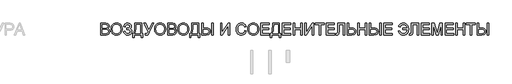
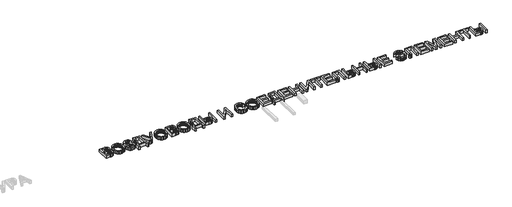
# One storey, part 8 of 8: 1 proxy.
"""IFC4 building model written with IfcOpenShell, lengths in millimetres."""

from ifc_helpers import new_model, si_unit, origin, origin_with_axes, place, context, project, spatial, polyline, outline, extrude, element, save

model = new_model("IFC4")

# Units and contexts
model_context = context("Model", 3, world=origin())
ifc_project = project(units=[si_unit("LENGTHUNIT", "METRE", prefix="MILLI")], contexts=[model_context])

# Site, building, storey
site = spatial("IfcSite", under=ifc_project)
building = spatial("IfcBuilding", under=site)
storey = spatial("IfcBuildingStorey", under=building, Name="Уровень 1", Elevation=0.0)

# Proxy
placement = place(None, origin())
element("IfcBuildingElementProxy", 1, Name="1000 мм Arial", ObjectType="1000 мм Arial", at=placement, inside=storey, context=model_context, shape_type="SweptSolid", body=[
    extrude(outline(polyline([(-53728.4131432, 36102.2722576), (-53728.4131432, 37106.8353591), (-53345.0801043, 37106.8353591), (-53289.4762735, 37104.9882849), (-53239.6512558, 37099.4470623), (-53195.6050511, 37090.2116914), (-53157.3376594, 37077.2821721), (-53123.8757263, 37060.5205487), (-53094.2458972, 37039.7888654), (-53068.4481723, 37015.0871223), (-53046.4825515, 36986.4153193), (-53028.9391789, 36955.3906044), (-53016.4081984, 36923.6301255), (-53008.8896101, 36891.1338826), (-53006.383414, 36857.9018757), (-53008.4910713, 36827.2067217), (-53014.8140431, 36797.4159443), (-53025.3523294, 36768.5295435), (-53040.1059303, 36740.5475192), (-53059.1208309, 36714.3435912), (-53082.4430165, 36690.7914793), (-53110.0724872, 36669.8911835), (-53142.0092429, 36651.6427037), (-53104.1097332, 36635.4865527), (-53070.8547337, 36614.4866222), (-53042.2442444, 36588.642912), (-53018.2782652, 36557.9554223), (-52999.3400067, 36523.3591863), (-52985.8126791, 36485.7892375), (-52977.6962826, 36445.245576), (-52974.9908171, 36401.7282016), (-52976.8378913, 36366.0666407), (-52982.3791139, 36331.6773384), (-52991.6144848, 36298.5602946), (-53004.5440041, 36266.7155094), (-53020.2019815, 36237.3002782), (-53037.6227268, 36211.4718965), (-53056.80624, 36189.2303642), (-53077.7525211, 36170.5756813), (-53100.9520794, 36154.7414271), (-53126.8954243, 36140.9611807), (-53187.0134737, 36119.5627113), (-53260.0687066, 36106.594871), (-53348.0231602, 36102.2722576), (-53728.4131432, 36102.2722576)]), holes=[polyline([(-53602.8427556, 36698.7315991), (-53373.5296452, 36698.7315991), (-53293.3313703, 36701.4294004), (-53239.620599, 36709.5228043), (-53214.5356454, 36717.6698576), (-53192.7463014, 36728.1315019), (-53174.252567, 36740.907737), (-53159.054442, 36755.998563), (-53147.1979119, 36773.296681), (-53138.7289618, 36792.694792), (-53133.6475917, 36814.1928961), (-53131.9538017, 36837.7909933), (-53133.5326286, 36860.3850791), (-53138.2691093, 36881.5689507), (-53146.1632438, 36901.3426079), (-53157.2150321, 36919.7060508), (-53171.2098763, 36935.9771649), (-53187.9331787, 36949.4738356), (-53207.3849392, 36960.1960629), (-53229.5651578, 36968.1438469), (-53293.4539976, 36977.9846902), (-53390.9427263, 36981.2649714), (-53602.8427556, 36981.2649714), (-53602.8427556, 36698.7315991)]), polyline([(-53602.8427556, 36227.8426452), (-53345.3253589, 36227.8426452), (-53288.9167863, 36229.0689186), (-53252.1285868, 36232.7477385), (-53208.8717956, 36243.6309142), (-53173.2792125, 36260.0936335), (-53144.3391622, 36283.668738), (-53121.0399692, 36315.8890694), (-53105.6808959, 36355.3137566), (-53100.5612048, 36400.5019283), (-53102.0633896, 36427.6638823), (-53106.5699441, 36452.9864263), (-53114.0808681, 36476.4695603), (-53124.5961618, 36498.1132844), (-53138.4760429, 36517.2967976), (-53156.0807292, 36533.3992991), (-53177.4102208, 36546.4207889), (-53202.4645175, 36556.3612669), (-53232.3472654, 36563.7112426), (-53268.1621104, 36568.9612253), (-53357.5880921, 36573.1612114), (-53602.8427556, 36573.1612114), (-53602.8427556, 36227.8426452)])]), origin_with_axes(), (0.0, 0.0, 1.0), 250.0),
    extrude(outline(polyline([(-52849.4204294, 36591.3100565), (-52847.3281006, 36651.9147831), (-52841.051114, 36709.1395939), (-52830.5894698, 36762.9844888), (-52815.9431679, 36813.4494679), (-52797.1122082, 36860.5345312), (-52774.0965909, 36904.2396786), (-52746.8963159, 36944.5649102), (-52715.5113832, 36981.510226), (-52680.8193446, 37014.562124), (-52643.697752, 37043.2071023), (-52604.1466055, 37067.4451608), (-52562.1659049, 37087.2762996), (-52517.7556503, 37102.7005187), (-52470.9158416, 37113.717818), (-52421.646479, 37120.3281977), (-52369.9475624, 37122.5316575), (-52302.3645742, 37118.3929851), (-52238.1844944, 37105.9769677), (-52177.4073232, 37085.2836055), (-52120.0330603, 37056.3128984), (-52067.6711897, 37019.9385661), (-52021.931195, 36977.0343284), (-51982.8130761, 36927.6001853), (-51950.3168332, 36871.6361368), (-51924.7796914, 36810.4144414), (-51906.5388758, 36745.2073578), (-51895.5943864, 36676.0148859), (-51891.9462233, 36602.8370257), (-51895.7859916, 36528.6934752), (-51907.3052966, 36458.5659699), (-51926.5041382, 36392.4545097), (-51953.3825165, 36330.3590946), (-51987.3043022, 36273.9198651), (-52027.6333659, 36224.776962), (-52074.3697077, 36182.930385), (-52127.5133276, 36148.3801343), (-52184.9718967, 36121.3408076), (-52244.6530862, 36102.0270029), (-52306.5568961, 36090.43872), (-52370.6833264, 36086.5759591), (-52439.4466026, 36090.8449231), (-52504.4697453, 36103.651815), (-52565.7527543, 36124.996635), (-52623.2956297, 36154.8793829), (-52675.5961867, 36192.1427633), (-52721.1522404, 36235.6294808), (-52759.9637909, 36285.3395354), (-52792.0308382, 36341.2729271), (-52817.1387844, 36401.1840429), (-52835.0730316, 36462.8272697), (-52845.83358, 36526.2026075), (-52849.4204294, 36591.3100565)]), holes=[polyline([(-52723.8500417, 36590.0837832), (-52722.2807951, 36547.2906765), (-52717.5730552, 36506.8351533), (-52709.726822, 36468.7172137), (-52698.7420956, 36432.9368576), (-52684.6188759, 36399.4940849), (-52667.3571629, 36368.3888958), (-52646.9569566, 36339.6212902), (-52623.4182571, 36313.1912681), (-52597.5113172, 36289.5088647), (-52570.0063899, 36268.984115), (-52540.9034752, 36251.6170192), (-52510.202573, 36237.4075771), (-52477.9036835, 36226.3557889), (-52444.0068065, 36218.4616544), (-52408.5119422, 36213.7251737), (-52371.4190904, 36212.1463468), (-52333.6479561, 36213.7405021), (-52297.5897725, 36218.522968), (-52263.2445393, 36226.4937446), (-52230.6122567, 36237.6528318), (-52199.6929247, 36252.0002296), (-52170.4865431, 36269.535938), (-52142.9931121, 36290.2599571), (-52117.2126317, 36314.1722868), (-52093.8463769, 36341.0161761), (-52073.5956226, 36370.5348741), (-52056.4603691, 36402.7283808), (-52042.4406162, 36437.5966962), (-52031.5363639, 36475.1398202), (-52023.7476123, 36515.3577529), (-52019.0743613, 36558.2504943), (-52017.516611, 36603.8180443), (-52020.1837555, 36661.2842776), (-52028.1851889, 36714.9797205), (-52041.5209112, 36764.904373), (-52060.1909224, 36811.0582349), (-52083.988289, 36852.835834), (-52112.7060773, 36889.6316977), (-52146.3442872, 36921.4458261), (-52184.9029188, 36948.2782191), (-52227.1863556, 36969.5770538), (-52271.9989812, 36984.7905072), (-52319.3407954, 36993.9185792), (-52369.2117984, 36996.9612698), (-52439.2779901, 36991.0981505), (-52504.2858043, 36973.5087926), (-52534.8928199, 36960.3167742), (-52564.2352411, 36944.1931961), (-52619.1263005, 36903.1513611), (-52643.6709273, 36877.7387626), (-52664.9429373, 36848.4059217), (-52682.9423303, 36815.1528382), (-52697.6691064, 36777.9795122), (-52709.1232656, 36736.8859437), (-52717.3048079, 36691.8721327), (-52722.2137333, 36642.9380792), (-52723.8500417, 36590.0837832)])]), origin_with_axes(), (0.0, 0.0, 1.0), 250.0),
    extrude(outline(polyline([(-51766.3758356, 36384.8056299), (-51640.8054479, 36416.1982268), (-51630.5584015, 36382.2227917), (-51614.2872875, 36348.2320282), (-51591.9921057, 36314.2259362), (-51563.6728563, 36280.2045159), (-51529.7893917, 36250.4290669), (-51490.8015644, 36229.1608891), (-51446.7093744, 36216.3999824), (-51397.5128218, 36212.1463468), (-51347.4578778, 36215.3423216), (-51302.9978059, 36224.9302461), (-51264.1326059, 36240.9101203), (-51230.862278, 36263.2819441), (-51204.1984975, 36290.1756508), (-51185.1529401, 36319.7211735), (-51173.7256056, 36351.9185123), (-51169.9164941, 36386.7676672), (-51174.0781592, 36423.8854276), (-51186.5631544, 36457.0024714), (-51207.3714798, 36486.1187985), (-51236.5031352, 36511.2344089), (-51272.8084896, 36531.4602544), (-51315.1379117, 36545.9072869), (-51363.4914015, 36554.5755064), (-51417.8689589, 36557.4649129), (-51483.8424633, 36557.4649129), (-51483.8424633, 36683.0353006), (-51401.8354352, 36685.5798177), (-51341.7173859, 36693.2133691), (-51317.8433772, 36700.2797691), (-51295.3949113, 36711.3009006), (-51274.3719881, 36726.2767635), (-51254.7746077, 36745.2073578), (-51238.2505747, 36766.8280892), (-51226.447694, 36789.8743634), (-51219.3659656, 36814.3461803), (-51217.0053895, 36840.2435399), (-51220.1477149, 36870.8467234), (-51229.574691, 36899.3805706), (-51245.2863179, 36925.8450816), (-51267.2825955, 36950.2402564), (-51294.6438189, 36970.6806998), (-51326.4502831, 36985.2810165), (-51362.701988, 36994.0412065), (-51403.3989337, 36996.9612698), (-51439.551004, 36994.7156568), (-51472.9592876, 36987.9788178), (-51503.6237848, 36976.7507527), (-51531.5444954, 36961.0314616), (-51556.0393049, 36941.6026938), (-51576.4260988, 36919.2461983), (-51592.7048771, 36893.9619754), (-51604.8756398, 36865.7500249), (-51620.0507721, 36813.9399772), (-51625.1091495, 36777.2130914), (-51750.6795372, 36808.6056883), (-51735.1326908, 36882.1820873), (-51711.6687173, 36945.9482998), (-51680.2876167, 36999.9043258), (-51640.9893889, 37044.0501652), (-51593.7740341, 37078.3858181), (-51538.6415522, 37102.9112844), (-51475.5919432, 37117.6265642), (-51404.625207, 37122.5316575), (-51336.2528054, 37117.434959), (-51275.3453426, 37102.1448636), (-51221.9028186, 37076.6613712), (-51175.9252334, 37040.9844819), (-51138.9607571, 36998.4864473), (-51112.5575597, 36952.5395189), (-51096.7156413, 36903.1436969), (-51091.4350018, 36850.2989811), (-51093.4890096, 36816.2737286), (-51099.651033, 36784.2181777), (-51109.9210721, 36754.1323283), (-51124.2991267, 36726.0161804), (-51142.785197, 36699.869734), (-51165.3792828, 36675.6929891), (-51192.0813843, 36653.4859458), (-51222.8915014, 36633.2486039), (-51186.4251987, 36619.9358742), (-51153.055236, 36601.0895862), (-51122.7816135, 36576.7097398), (-51095.6043311, 36546.7963351), (-51073.1788578, 36512.5143316), (-51057.1606626, 36475.0286892), (-51047.5497455, 36434.3394077), (-51044.3461064, 36390.4464871), (-51045.8827802, 36358.7339095), (-51050.4928014, 36328.3434078), (-51058.1761702, 36299.274982), (-51068.9328864, 36271.5286322), (-51082.7629502, 36245.1043582), (-51099.6663615, 36220.0021602), (-51142.6932265, 36173.763992), (-51168.2801857, 36153.3292968), (-51195.8675032, 36135.6192276), (-51225.4551791, 36120.6337844), (-51257.0432133, 36108.3729673), (-51326.2203568, 36092.0252112), (-51403.3989337, 36086.5759591), (-51470.1235306, 36091.2357977), (-51530.7474177, 36105.2153135), (-51585.2705951, 36128.5145065), (-51633.6930627, 36161.1333768), (-51676.0148206, 36203.0719242), (-51712.2358687, 36254.3301489), (-51742.356207, 36314.9080508), (-51766.3758356, 36384.8056299)])), origin_with_axes(), (0.0, 0.0, 1.0), 250.0),
    extrude(outline(polyline([(-50777.5090326, 37106.8353591), (-50181.0496911, 37106.8353591), (-50181.0496911, 36227.8426452), (-50086.8719003, 36227.8426452), (-50086.8719003, 35866.8277806), (-50212.442288, 35866.8277806), (-50212.442288, 36102.2722576), (-50855.9905249, 36102.2722576), (-50855.9905249, 35866.8277806), (-50981.5609126, 35866.8277806), (-50981.5609126, 36227.8426452), (-50903.0794203, 36227.8426452), (-50873.6488607, 36279.0050673), (-50848.1423757, 36341.748108), (-50826.5599653, 36416.0717673), (-50808.9016295, 36501.9760453), (-50795.1673684, 36599.4609419), (-50785.3571818, 36708.5264572), (-50779.4710699, 36829.1725911), (-50777.5090326, 36961.3993436), (-50777.5090326, 37106.8353591)]), holes=[polyline([(-50306.6200788, 36981.2649714), (-50651.9386449, 36981.2649714), (-50651.9386449, 36930.7425107), (-50658.3152662, 36781.8116163), (-50677.4451299, 36586.6502179), (-50693.2640557, 36482.3710007), (-50715.2143481, 36387.8099995), (-50743.296007, 36302.9672143), (-50777.5090326, 36227.8426452), (-50306.6200788, 36227.8426452), (-50306.6200788, 36981.2649714)])]), origin_with_axes(), (0.0, 0.0, 1.0), 250.0),
    extrude(outline(polyline([(-50000.5422588, 37106.8353591), (-49861.4828646, 37106.8353591), (-49561.0459019, 36511.8475455), (-49290.7752628, 37106.8353591), (-49152.9421419, 37106.8353591), (-49534.3131436, 36324.227728), (-49591.8866758, 36202.7040422), (-49616.3968137, 36160.9800926), (-49638.0558662, 36131.9480718), (-49660.4813395, 36112.0977725), (-49687.2907399, 36097.9189873), (-49718.4840674, 36089.4117161), (-49754.061322, 36086.5759591), (-49805.3808603, 36090.5000337), (-49867.1237219, 36102.2722576), (-49867.1237219, 36212.1463468), (-49768.2860925, 36212.1463468), (-49747.7919997, 36213.8937863), (-49728.738778, 36219.1361047), (-49711.1264275, 36227.8733021), (-49694.9549481, 36240.1053784), (-49679.1206939, 36258.5454634), (-49662.5200189, 36285.9066868), (-49627.0194063, 36367.3925488), (-50000.5422588, 37106.8353591)])), origin_with_axes(), (0.0, 0.0, 1.0), 250.0),
    extrude(outline(polyline([(-49082.3087988, 36591.3100565), (-49080.21647, 36651.9147831), (-49073.9394834, 36709.1395939), (-49063.4778392, 36762.9844888), (-49048.8315373, 36813.4494679), (-49030.0005776, 36860.5345312), (-49006.9849603, 36904.2396786), (-48979.7846853, 36944.5649102), (-48948.3997526, 36981.510226), (-48913.707714, 37014.562124), (-48876.5861214, 37043.2071023), (-48837.0349749, 37067.4451608), (-48795.0542743, 37087.2762996), (-48750.6440197, 37102.7005187), (-48703.804211, 37113.717818), (-48654.5348484, 37120.3281977), (-48602.8359318, 37122.5316575), (-48535.2529436, 37118.3929851), (-48471.0728638, 37105.9769677), (-48410.2956926, 37085.2836055), (-48352.9214297, 37056.3128984), (-48300.5595591, 37019.9385661), (-48254.8195643, 36977.0343284), (-48215.7014455, 36927.6001853), (-48183.2052026, 36871.6361368), (-48157.6680608, 36810.4144414), (-48139.4272452, 36745.2073578), (-48128.4827558, 36676.0148859), (-48124.8345927, 36602.8370257), (-48128.674361, 36528.6934752), (-48140.193666, 36458.5659699), (-48159.3925076, 36392.4545097), (-48186.2708859, 36330.3590946), (-48220.1926715, 36273.9198651), (-48260.5217353, 36224.776962), (-48307.2580771, 36182.930385), (-48360.401697, 36148.3801343), (-48417.8602661, 36121.3408076), (-48477.5414556, 36102.0270029), (-48539.4452655, 36090.43872), (-48603.5716958, 36086.5759591), (-48672.334972, 36090.8449231), (-48737.3581147, 36103.651815), (-48798.6411237, 36124.996635), (-48856.1839991, 36154.8793829), (-48908.4845561, 36192.1427633), (-48954.0406098, 36235.6294808), (-48992.8521603, 36285.3395354), (-49024.9192076, 36341.2729271), (-49050.0271537, 36401.1840429), (-49067.961401, 36462.8272697), (-49078.7219494, 36526.2026075), (-49082.3087988, 36591.3100565)]), holes=[polyline([(-48956.7384111, 36590.0837832), (-48955.1691645, 36547.2906765), (-48950.4614246, 36506.8351533), (-48942.6151914, 36468.7172137), (-48931.630465, 36432.9368576), (-48917.5072452, 36399.4940849), (-48900.2455323, 36368.3888958), (-48879.845326, 36339.6212902), (-48856.3066265, 36313.1912681), (-48830.3996866, 36289.5088647), (-48802.8947593, 36268.984115), (-48773.7918446, 36251.6170192), (-48743.0909424, 36237.4075771), (-48710.7920529, 36226.3557889), (-48676.8951759, 36218.4616544), (-48641.4003116, 36213.7251737), (-48604.3074598, 36212.1463468), (-48566.5363255, 36213.7405021), (-48530.4781419, 36218.522968), (-48496.1329087, 36226.4937446), (-48463.5006261, 36237.6528318), (-48432.581294, 36252.0002296), (-48403.3749125, 36269.535938), (-48375.8814815, 36290.2599571), (-48350.1010011, 36314.1722868), (-48326.7347462, 36341.0161761), (-48306.483992, 36370.5348741), (-48289.3487385, 36402.7283808), (-48275.3289856, 36437.5966962), (-48264.4247333, 36475.1398202), (-48256.6359817, 36515.3577529), (-48251.9627307, 36558.2504943), (-48250.4049804, 36603.8180443), (-48253.0721249, 36661.2842776), (-48261.0735583, 36714.9797205), (-48274.4092806, 36764.904373), (-48293.0792918, 36811.0582349), (-48316.8766584, 36852.835834), (-48345.5944466, 36889.6316977), (-48379.2326566, 36921.4458261), (-48417.7912882, 36948.2782191), (-48460.074725, 36969.5770538), (-48504.8873506, 36984.7905072), (-48552.2291648, 36993.9185792), (-48602.1001678, 36996.9612698), (-48672.1663595, 36991.0981505), (-48737.1741737, 36973.5087926), (-48767.7811893, 36960.3167742), (-48797.1236105, 36944.1931961), (-48852.0146698, 36903.1513611), (-48876.5592967, 36877.7387626), (-48897.8313067, 36848.4059217), (-48915.8306997, 36815.1528382), (-48930.5574758, 36777.9795122), (-48942.011635, 36736.8859437), (-48950.1931773, 36691.8721327), (-48955.1021027, 36642.9380792), (-48956.7384111, 36590.0837832)])]), origin_with_axes(), (0.0, 0.0, 1.0), 250.0),
    extrude(outline(polyline([(-47952.1753096, 36102.2722576), (-47952.1753096, 37106.8353591), (-47568.8422707, 37106.8353591), (-47513.2384399, 37104.9882849), (-47463.4134222, 37099.4470623), (-47419.3672175, 37090.2116914), (-47381.0998258, 37077.2821721), (-47347.6378927, 37060.5205487), (-47318.0080636, 37039.7888654), (-47292.2103387, 37015.0871223), (-47270.2447179, 36986.4153193), (-47252.7013453, 36955.3906044), (-47240.1703648, 36923.6301255), (-47232.6517765, 36891.1338826), (-47230.1455804, 36857.9018757), (-47232.2532377, 36827.2067217), (-47238.5762095, 36797.4159443), (-47249.1144958, 36768.5295435), (-47263.8680967, 36740.5475192), (-47282.8829973, 36714.3435912), (-47306.2051829, 36690.7914793), (-47333.8346536, 36669.8911835), (-47365.7714093, 36651.6427037), (-47327.8718996, 36635.4865527), (-47294.6169001, 36614.4866222), (-47266.0064108, 36588.642912), (-47242.0404316, 36557.9554223), (-47223.1021731, 36523.3591863), (-47209.5748455, 36485.7892375), (-47201.458449, 36445.245576), (-47198.7529835, 36401.7282016), (-47200.6000577, 36366.0666407), (-47206.1412803, 36331.6773384), (-47215.3766512, 36298.5602946), (-47228.3061705, 36266.7155094), (-47243.9641479, 36237.3002782), (-47261.3848932, 36211.4718965), (-47280.5684064, 36189.2303642), (-47301.5146875, 36170.5756813), (-47324.7142458, 36154.7414271), (-47350.6575907, 36140.9611807), (-47410.7756401, 36119.5627113), (-47483.8308729, 36106.594871), (-47571.7853266, 36102.2722576), (-47952.1753096, 36102.2722576)]), holes=[polyline([(-47826.604922, 36698.7315991), (-47597.2918116, 36698.7315991), (-47517.0935367, 36701.4294004), (-47463.3827654, 36709.5228043), (-47438.2978118, 36717.6698576), (-47416.5084678, 36728.1315019), (-47398.0147334, 36740.907737), (-47382.8166084, 36755.998563), (-47370.9600783, 36773.296681), (-47362.4911282, 36792.694792), (-47357.4097581, 36814.1928961), (-47355.7159681, 36837.7909933), (-47357.294795, 36860.3850791), (-47362.0312757, 36881.5689507), (-47369.9254102, 36901.3426079), (-47380.9771985, 36919.7060508), (-47394.9720427, 36935.9771649), (-47411.6953451, 36949.4738356), (-47431.1471056, 36960.1960629), (-47453.3273242, 36968.1438469), (-47517.216164, 36977.9846902), (-47614.7048927, 36981.2649714), (-47826.604922, 36981.2649714), (-47826.604922, 36698.7315991)]), polyline([(-47826.604922, 36227.8426452), (-47569.0875253, 36227.8426452), (-47512.6789527, 36229.0689186), (-47475.8907532, 36232.7477385), (-47432.633962, 36243.6309142), (-47397.0413789, 36260.0936335), (-47368.1013286, 36283.668738), (-47344.8021356, 36315.8890694), (-47329.4430623, 36355.3137566), (-47324.3233712, 36400.5019283), (-47325.825556, 36427.6638823), (-47330.3321105, 36452.9864263), (-47337.8430345, 36476.4695603), (-47348.3583282, 36498.1132844), (-47362.2382093, 36517.2967976), (-47379.8428956, 36533.3992991), (-47401.1723872, 36546.4207889), (-47426.2266839, 36556.3612669), (-47456.1094318, 36563.7112426), (-47491.9242768, 36568.9612253), (-47581.3502585, 36573.1612114), (-47826.604922, 36573.1612114), (-47826.604922, 36227.8426452)])]), origin_with_axes(), (0.0, 0.0, 1.0), 250.0),
    extrude(outline(polyline([(-47073.1825958, 36591.3100565), (-47071.090267, 36651.9147831), (-47064.8132804, 36709.1395939), (-47054.3516362, 36762.9844888), (-47039.7053343, 36813.4494679), (-47020.8743746, 36860.5345312), (-46997.8587573, 36904.2396786), (-46970.6584823, 36944.5649102), (-46939.2735496, 36981.510226), (-46904.581511, 37014.562124), (-46867.4599184, 37043.2071023), (-46827.9087719, 37067.4451608), (-46785.9280713, 37087.2762996), (-46741.5178167, 37102.7005187), (-46694.678008, 37113.717818), (-46645.4086454, 37120.3281977), (-46593.7097288, 37122.5316575), (-46526.1267406, 37118.3929851), (-46461.9466608, 37105.9769677), (-46401.1694896, 37085.2836055), (-46343.7952267, 37056.3128984), (-46291.4333561, 37019.9385661), (-46245.6933613, 36977.0343284), (-46206.5752425, 36927.6001853), (-46174.0789996, 36871.6361368), (-46148.5418578, 36810.4144414), (-46130.3010422, 36745.2073578), (-46119.3565528, 36676.0148859), (-46115.7083897, 36602.8370257), (-46119.548158, 36528.6934752), (-46131.067463, 36458.5659699), (-46150.2663046, 36392.4545097), (-46177.1446829, 36330.3590946), (-46211.0664686, 36273.9198651), (-46251.3955323, 36224.776962), (-46298.1318741, 36182.930385), (-46351.275494, 36148.3801343), (-46408.7340631, 36121.3408076), (-46468.4152526, 36102.0270029), (-46530.3190625, 36090.43872), (-46594.4454928, 36086.5759591), (-46663.208769, 36090.8449231), (-46728.2319117, 36103.651815), (-46789.5149207, 36124.996635), (-46847.0577961, 36154.8793829), (-46899.3583531, 36192.1427633), (-46944.9144068, 36235.6294808), (-46983.7259573, 36285.3395354), (-47015.7930046, 36341.2729271), (-47040.9009508, 36401.1840429), (-47058.835198, 36462.8272697), (-47069.5957464, 36526.2026075), (-47073.1825958, 36591.3100565)]), holes=[polyline([(-46947.6122081, 36590.0837832), (-46946.0429615, 36547.2906765), (-46941.3352216, 36506.8351533), (-46933.4889884, 36468.7172137), (-46922.504262, 36432.9368576), (-46908.3810423, 36399.4940849), (-46891.1193293, 36368.3888958), (-46870.719123, 36339.6212902), (-46847.1804235, 36313.1912681), (-46821.2734836, 36289.5088647), (-46793.7685563, 36268.984115), (-46764.6656416, 36251.6170192), (-46733.9647394, 36237.4075771), (-46701.6658499, 36226.3557889), (-46667.7689729, 36218.4616544), (-46632.2741086, 36213.7251737), (-46595.1812568, 36212.1463468), (-46557.4101225, 36213.7405021), (-46521.3519389, 36218.522968), (-46487.0067057, 36226.4937446), (-46454.3744231, 36237.6528318), (-46423.455091, 36252.0002296), (-46394.2487095, 36269.535938), (-46366.7552785, 36290.2599571), (-46340.9747981, 36314.1722868), (-46317.6085432, 36341.0161761), (-46297.357789, 36370.5348741), (-46280.2225355, 36402.7283808), (-46266.2027826, 36437.5966962), (-46255.2985303, 36475.1398202), (-46247.5097787, 36515.3577529), (-46242.8365277, 36558.2504943), (-46241.2787774, 36603.8180443), (-46243.9459219, 36661.2842776), (-46251.9473553, 36714.9797205), (-46265.2830776, 36764.904373), (-46283.9530888, 36811.0582349), (-46307.7504554, 36852.835834), (-46336.4682437, 36889.6316977), (-46370.1064536, 36921.4458261), (-46408.6650852, 36948.2782191), (-46450.948522, 36969.5770538), (-46495.7611476, 36984.7905072), (-46543.1029618, 36993.9185792), (-46592.9739648, 36996.9612698), (-46663.0401565, 36991.0981505), (-46728.0479707, 36973.5087926), (-46758.6549863, 36960.3167742), (-46787.9974075, 36944.1931961), (-46842.8884669, 36903.1513611), (-46867.4330937, 36877.7387626), (-46888.7051037, 36848.4059217), (-46906.7044967, 36815.1528382), (-46921.4312728, 36777.9795122), (-46932.885432, 36736.8859437), (-46941.0669743, 36691.8721327), (-46945.9758997, 36642.9380792), (-46947.6122081, 36590.0837832)])]), origin_with_axes(), (0.0, 0.0, 1.0), 250.0),
    extrude(outline(polyline([(-45848.8713159, 37106.8353591), (-45252.4119744, 37106.8353591), (-45252.4119744, 36227.8426452), (-45158.2341836, 36227.8426452), (-45158.2341836, 35866.8277806), (-45283.8045713, 35866.8277806), (-45283.8045713, 36102.2722576), (-45927.3528082, 36102.2722576), (-45927.3528082, 35866.8277806), (-46052.9231959, 35866.8277806), (-46052.9231959, 36227.8426452), (-45974.4417036, 36227.8426452), (-45945.011144, 36279.0050673), (-45919.504659, 36341.748108), (-45897.9222486, 36416.0717673), (-45880.2639128, 36501.9760453), (-45866.5296517, 36599.4609419), (-45856.7194651, 36708.5264572), (-45850.8333532, 36829.1725911), (-45848.8713159, 36961.3993436), (-45848.8713159, 37106.8353591)]), holes=[polyline([(-45377.9823621, 36981.2649714), (-45723.3009282, 36981.2649714), (-45723.3009282, 36930.7425107), (-45729.6775494, 36781.8116163), (-45748.8074132, 36586.6502179), (-45764.626339, 36482.3710007), (-45786.5766314, 36387.8099995), (-45814.6582903, 36302.9672143), (-45848.8713159, 36227.8426452), (-45377.9823621, 36227.8426452), (-45377.9823621, 36981.2649714)])]), origin_with_axes(), (0.0, 0.0, 1.0), 250.0),
    extrude(outline(polyline([(-44122.2784852, 37106.8353591), (-43996.7080975, 37106.8353591), (-43996.7080975, 36102.2722576), (-44122.2784852, 36102.2722576), (-44122.2784852, 37106.8353591)])), origin_with_axes(), (0.0, 0.0, 1.0), 250.0),
    extrude(outline(polyline([(-45001.271199, 37106.8353591), (-44875.7008113, 37106.8353591), (-44875.7008113, 36683.0353006), (-44634.3702225, 36683.0353006), (-44526.0443033, 36677.5477275), (-44479.4804062, 36670.6882611), (-44437.9825507, 36661.0850082), (-44401.5507369, 36648.7379688), (-44370.1849647, 36633.6471428), (-44343.8852341, 36615.8125302), (-44322.6515452, 36595.2341311), (-44289.9253761, 36549.8620184), (-44266.549541, 36501.5468497), (-44252.5240399, 36450.288625), (-44247.8488729, 36396.0873444), (-44252.7922872, 36339.1805982), (-44267.6225301, 36285.9373437), (-44292.3396017, 36236.3575806), (-44326.9435018, 36190.4413091), (-44348.8382287, 36169.7766876), (-44374.9750948, 36151.867349), (-44405.3541002, 36136.7132933), (-44439.9752449, 36124.3145204), (-44478.8385288, 36114.6710304), (-44521.9439519, 36107.7828233), (-44620.881216, 36102.2722576), (-45001.271199, 36102.2722576), (-45001.271199, 37106.8353591)]), holes=[polyline([(-44875.7008113, 36227.8426452), (-44622.1074893, 36227.8426452), (-44561.2306833, 36230.3335129), (-44509.3210009, 36237.806116), (-44466.3784422, 36250.2604543), (-44432.4030071, 36267.6965281), (-44406.597618, 36290.6201749), (-44388.1651972, 36319.5372325), (-44377.1057447, 36354.447701), (-44373.4192606, 36395.3515804), (-44375.6495452, 36423.9390771), (-44382.3403989, 36450.104684), (-44393.4918219, 36473.8484011), (-44409.1038141, 36495.1702284), (-44428.2490063, 36513.4570293), (-44450.0000292, 36528.095667), (-44474.356883, 36539.0861416), (-44501.3195676, 36546.4284531), (-44576.7660334, 36554.705798), (-44690.0430311, 36557.4649129), (-44875.7008113, 36557.4649129), (-44875.7008113, 36227.8426452)])]), origin_with_axes(), (0.0, 0.0, 1.0), 250.0),
    extrude(outline(polyline([(-43368.8561591, 37106.8353591), (-43243.2857714, 37106.8353591), (-43243.2857714, 36311.2292308), (-42717.4597729, 37106.8353591), (-42584.041236, 37106.8353591), (-42584.041236, 36102.2722576), (-42709.6116237, 36102.2722576), (-42709.6116237, 36895.6710938), (-43234.2113488, 36102.2722576), (-43368.8561591, 36102.2722576), (-43368.8561591, 37106.8353591)])), origin_with_axes(), (0.0, 0.0, 1.0), 250.0),
    extrude(outline(polyline([(-41265.5521653, 36459.3630475), (-41139.9817776, 36426.989432), (-41164.8291407, 36348.8988143), (-41197.9231919, 36280.6643684), (-41239.2639311, 36222.2860943), (-41263.0268087, 36196.7930216), (-41288.8513583, 36173.763992), (-41345.5664993, 36135.6192276), (-41408.2903794, 36108.3729673), (-41477.0229989, 36092.0252112), (-41551.7643576, 36086.5759591), (-41628.337462, 36090.6993031), (-41697.4149708, 36103.0693352), (-41758.996884, 36123.6860554), (-41813.0832015, 36152.5494636), (-41860.4173515, 36189.2303642), (-41901.7427623, 36233.2995615), (-41937.0594338, 36284.7570556), (-41966.3673661, 36343.6028464), (-41989.3829834, 36407.2924168), (-42005.8227101, 36473.2812497), (-42015.6865461, 36541.5693451), (-42018.9744914, 36612.1567029), (-42015.2573504, 36687.8944086), (-42004.1059275, 36758.6350506), (-41985.5202225, 36824.3786288), (-41959.5002355, 36885.1251433), (-41926.6284464, 36939.8705827), (-41887.487335, 36987.6109358), (-41842.0769012, 37028.3462025), (-41790.3971451, 37062.076383), (-41734.2031703, 37088.5255656), (-41675.2500806, 37107.4178389), (-41613.5378759, 37118.7532029), (-41549.0665563, 37122.5316575), (-41477.2452609, 37117.6418927), (-41411.3867196, 37102.9725981), (-41351.4909322, 37078.5237738), (-41297.5578989, 37044.2954199), (-41250.4766677, 37001.1919128), (-41211.1362869, 36950.1176291), (-41179.5367563, 36891.0725689), (-41155.6780761, 36824.0567321), (-41281.2484638, 36794.1356632), (-41301.022121, 36843.5161568), (-41324.7811665, 36885.7076231), (-41352.5256003, 36920.7100621), (-41384.2554224, 36948.5234738), (-41420.1545738, 36969.7150096), (-41460.4069954, 36984.8518208), (-41505.0126873, 36993.9339076), (-41553.9716495, 36996.9612698), (-41610.30358, 36993.6043466), (-41661.8223878, 36983.533577), (-41708.5280727, 36966.748961), (-41750.420635, 36943.2504985), (-41786.971244, 36914.0958504), (-41817.6510696, 36880.3426774), (-41842.4601116, 36841.9909794), (-41861.3983702, 36799.0407564), (-41875.4008786, 36753.4387174), (-41885.4026703, 36707.1315713), (-41891.4037454, 36660.119318), (-41893.4041037, 36612.4019575), (-41891.0358634, 36552.4371923), (-41883.9311424, 36496.3965017), (-41872.0899406, 36444.2798857), (-41855.5122582, 36396.0873444), (-41833.9298479, 36352.7769037), (-41807.0744622, 36315.3065896), (-41774.9461013, 36283.6764022), (-41737.5447651, 36257.8863415), (-41696.686871, 36237.8750938), (-41654.1888364, 36223.5813455), (-41610.0506612, 36215.0050965), (-41564.2723454, 36212.1463468), (-41509.6801901, 36216.0397646), (-41459.4566336, 36227.7200179), (-41413.6016757, 36247.1871068), (-41372.1153166, 36274.4410313), (-41335.9785748, 36309.359164), (-41306.1724689, 36351.8188776), (-41282.6969991, 36401.8201721), (-41265.5521653, 36459.3630475)])), origin_with_axes(), (0.0, 0.0, 1.0), 250.0),
    extrude(outline(polyline([(-41014.4113899, 36591.3100565), (-41012.3190611, 36651.9147831), (-41006.0420745, 36709.1395939), (-40995.5804303, 36762.9844888), (-40980.9341284, 36813.4494679), (-40962.1031687, 36860.5345312), (-40939.0875514, 36904.2396786), (-40911.8872764, 36944.5649102), (-40880.5023437, 36981.510226), (-40845.8103051, 37014.562124), (-40808.6887125, 37043.2071023), (-40769.137566, 37067.4451608), (-40727.1568654, 37087.2762996), (-40682.7466108, 37102.7005187), (-40635.9068021, 37113.717818), (-40586.6374395, 37120.3281977), (-40534.9385229, 37122.5316575), (-40467.3555347, 37118.3929851), (-40403.1754549, 37105.9769677), (-40342.3982837, 37085.2836055), (-40285.0240208, 37056.3128984), (-40232.6621502, 37019.9385661), (-40186.9221554, 36977.0343284), (-40147.8040366, 36927.6001853), (-40115.3077937, 36871.6361368), (-40089.7706519, 36810.4144414), (-40071.5298363, 36745.2073578), (-40060.5853469, 36676.0148859), (-40056.9371838, 36602.8370257), (-40060.7769521, 36528.6934752), (-40072.2962571, 36458.5659699), (-40091.4950987, 36392.4545097), (-40118.373477, 36330.3590946), (-40152.2952627, 36273.9198651), (-40192.6243264, 36224.776962), (-40239.3606682, 36182.930385), (-40292.5042881, 36148.3801343), (-40349.9628572, 36121.3408076), (-40409.6440467, 36102.0270029), (-40471.5478566, 36090.43872), (-40535.6742869, 36086.5759591), (-40604.4375631, 36090.8449231), (-40669.4607058, 36103.651815), (-40730.7437148, 36124.996635), (-40788.2865902, 36154.8793829), (-40840.5871472, 36192.1427633), (-40886.1432009, 36235.6294808), (-40924.9547514, 36285.3395354), (-40957.0217987, 36341.2729271), (-40982.1297449, 36401.1840429), (-41000.0639921, 36462.8272697), (-41010.8245405, 36526.2026075), (-41014.4113899, 36591.3100565)]), holes=[polyline([(-40888.8410022, 36590.0837832), (-40887.2717556, 36547.2906765), (-40882.5640157, 36506.8351533), (-40874.7177825, 36468.7172137), (-40863.7330561, 36432.9368576), (-40849.6098364, 36399.4940849), (-40832.3481234, 36368.3888958), (-40811.9479171, 36339.6212902), (-40788.4092176, 36313.1912681), (-40762.5022777, 36289.5088647), (-40734.9973504, 36268.984115), (-40705.8944357, 36251.6170192), (-40675.1935335, 36237.4075771), (-40642.894644, 36226.3557889), (-40608.997767, 36218.4616544), (-40573.5029027, 36213.7251737), (-40536.4100509, 36212.1463468), (-40498.6389166, 36213.7405021), (-40462.580733, 36218.522968), (-40428.2354998, 36226.4937446), (-40395.6032172, 36237.6528318), (-40364.6838851, 36252.0002296), (-40335.4775036, 36269.535938), (-40307.9840726, 36290.2599571), (-40282.2035922, 36314.1722868), (-40258.8373374, 36341.0161761), (-40238.5865831, 36370.5348741), (-40221.4513296, 36402.7283808), (-40207.4315767, 36437.5966962), (-40196.5273244, 36475.1398202), (-40188.7385728, 36515.3577529), (-40184.0653218, 36558.2504943), (-40182.5075715, 36603.8180443), (-40185.174716, 36661.2842776), (-40193.1761494, 36714.9797205), (-40206.5118717, 36764.904373), (-40225.1818829, 36811.0582349), (-40248.9792495, 36852.835834), (-40277.6970378, 36889.6316977), (-40311.3352477, 36921.4458261), (-40349.8938793, 36948.2782191), (-40392.1773161, 36969.5770538), (-40436.9899417, 36984.7905072), (-40484.3317559, 36993.9185792), (-40534.2027589, 36996.9612698), (-40604.2689506, 36991.0981505), (-40669.2767648, 36973.5087926), (-40699.8837804, 36960.3167742), (-40729.2262016, 36944.1931961), (-40784.117261, 36903.1513611), (-40808.6618878, 36877.7387626), (-40829.9338978, 36848.4059217), (-40847.9332908, 36815.1528382), (-40862.6600669, 36777.9795122), (-40874.1142261, 36736.8859437), (-40882.2957684, 36691.8721327), (-40887.2046938, 36642.9380792), (-40888.8410022, 36590.0837832)])]), origin_with_axes(), (0.0, 0.0, 1.0), 250.0),
    extrude(outline(polyline([(-39884.2779008, 36102.2722576), (-39884.2779008, 37106.8353591), (-39162.2481716, 37106.8353591), (-39162.2481716, 36981.2649714), (-39758.7075131, 36981.2649714), (-39758.7075131, 36683.0353006), (-39193.6407685, 36683.0353006), (-39193.6407685, 36557.4649129), (-39758.7075131, 36557.4649129), (-39758.7075131, 36227.8426452), (-39146.5518731, 36227.8426452), (-39146.5518731, 36102.2722576), (-39884.2779008, 36102.2722576)])), origin_with_axes(), (0.0, 0.0, 1.0), 250.0),
    extrude(outline(polyline([(-38864.0185008, 37106.8353591), (-38267.5591593, 37106.8353591), (-38267.5591593, 36227.8426452), (-38173.3813685, 36227.8426452), (-38173.3813685, 35866.8277806), (-38298.9517562, 35866.8277806), (-38298.9517562, 36102.2722576), (-38942.4999931, 36102.2722576), (-38942.4999931, 35866.8277806), (-39068.0703808, 35866.8277806), (-39068.0703808, 36227.8426452), (-38989.5888885, 36227.8426452), (-38960.1583289, 36279.0050673), (-38934.6518439, 36341.748108), (-38913.0694335, 36416.0717673), (-38895.4110977, 36501.9760453), (-38881.6768366, 36599.4609419), (-38871.86665, 36708.5264572), (-38865.9805381, 36829.1725911), (-38864.0185008, 36961.3993436), (-38864.0185008, 37106.8353591)]), holes=[polyline([(-38393.129547, 36981.2649714), (-38738.4481131, 36981.2649714), (-38738.4481131, 36930.7425107), (-38744.8247344, 36781.8116163), (-38763.9545981, 36586.6502179), (-38779.7735239, 36482.3710007), (-38801.7238163, 36387.8099995), (-38829.8054752, 36302.9672143), (-38864.0185008, 36227.8426452), (-38393.129547, 36227.8426452), (-38393.129547, 36981.2649714)])]), origin_with_axes(), (0.0, 0.0, 1.0), 250.0),
    extrude(outline(polyline([(-38016.4183839, 36102.2722576), (-38016.4183839, 37106.8353591), (-37294.3886547, 37106.8353591), (-37294.3886547, 36981.2649714), (-37890.8479962, 36981.2649714), (-37890.8479962, 36683.0353006), (-37325.7812516, 36683.0353006), (-37325.7812516, 36557.4649129), (-37890.8479962, 36557.4649129), (-37890.8479962, 36227.8426452), (-37278.6923562, 36227.8426452), (-37278.6923562, 36102.2722576), (-38016.4183839, 36102.2722576)])), origin_with_axes(), (0.0, 0.0, 1.0), 250.0),
    extrude(outline(polyline([(-37090.3367747, 36102.2722576), (-37090.3367747, 37106.8353591), (-36964.766387, 37106.8353591), (-36964.766387, 36698.7315991), (-36431.0922394, 36698.7315991), (-36431.0922394, 37106.8353591), (-36305.5218517, 37106.8353591), (-36305.5218517, 36102.2722576), (-36431.0922394, 36102.2722576), (-36431.0922394, 36573.1612114), (-36964.766387, 36573.1612114), (-36964.766387, 36102.2722576), (-37090.3367747, 36102.2722576)])), origin_with_axes(), (0.0, 0.0, 1.0), 250.0),
    extrude(outline(polyline([(-36085.7736732, 37106.8353591), (-35960.2032855, 37106.8353591), (-35960.2032855, 36311.2292308), (-35434.3772871, 37106.8353591), (-35300.9587502, 37106.8353591), (-35300.9587502, 36102.2722576), (-35426.5291379, 36102.2722576), (-35426.5291379, 36895.6710938), (-35951.128863, 36102.2722576), (-36085.7736732, 36102.2722576), (-36085.7736732, 37106.8353591)])), origin_with_axes(), (0.0, 0.0, 1.0), 250.0),
    extrude(outline(polyline([(-34830.0697963, 36102.2722576), (-34830.0697963, 36981.2649714), (-35159.692064, 36981.2649714), (-35159.692064, 37106.8353591), (-34374.877141, 37106.8353591), (-34374.877141, 36981.2649714), (-34704.4994087, 36981.2649714), (-34704.4994087, 36102.2722576), (-34830.0697963, 36102.2722576)])), origin_with_axes(), (0.0, 0.0, 1.0), 250.0),
    extrude(outline(polyline([(-34233.6104548, 36102.2722576), (-34233.6104548, 37106.8353591), (-33511.5807256, 37106.8353591), (-33511.5807256, 36981.2649714), (-34108.0400671, 36981.2649714), (-34108.0400671, 36683.0353006), (-33542.9733226, 36683.0353006), (-33542.9733226, 36557.4649129), (-34108.0400671, 36557.4649129), (-34108.0400671, 36227.8426452), (-33495.8844272, 36227.8426452), (-33495.8844272, 36102.2722576), (-34233.6104548, 36102.2722576)])), origin_with_axes(), (0.0, 0.0, 1.0), 250.0),
    extrude(outline(polyline([(-33229.0473533, 37106.8353591), (-32616.8917134, 37106.8353591), (-32616.8917134, 36102.2722576), (-32742.4621011, 36102.2722576), (-32742.4621011, 36981.2649714), (-33103.4769657, 36981.2649714), (-33103.4769657, 36468.6827248), (-33107.1251288, 36333.5167484), (-33118.0696181, 36239.9827511), (-33127.3663027, 36205.6470982), (-33140.663704, 36175.3581473), (-33157.961822, 36149.1158983), (-33179.2606567, 36126.9203512), (-33204.1233482, 36109.2696797), (-33232.1130366, 36096.6620571), (-33263.2297221, 36089.0974836), (-33297.4734044, 36086.5759591), (-33345.2367501, 36090.5000337), (-33401.7066364, 36102.2722576), (-33386.0103379, 36227.8426452), (-33353.330154, 36216.0704214), (-33325.9229454, 36212.1463468), (-33303.1679112, 36214.2540041), (-33283.4632318, 36220.5769758), (-33266.8089073, 36231.1152622), (-33253.2049377, 36245.868863), (-33242.6359945, 36268.4399563), (-33235.0867494, 36302.4307198), (-33230.5572024, 36347.8411535), (-33229.0473533, 36404.6712576), (-33229.0473533, 37106.8353591)])), origin_with_axes(), (0.0, 0.0, 1.0), 250.0),
    extrude(outline(polyline([(-32397.1435349, 37106.8353591), (-32271.5731472, 37106.8353591), (-32271.5731472, 36683.0353006), (-32036.373925, 36683.0353006), (-31959.7548353, 36680.5750898), (-31894.4634453, 36673.1944572), (-31840.4997552, 36660.893403), (-31797.8637648, 36643.6719271), (-31763.4974551, 36622.2121441), (-31734.3428069, 36597.1961684), (-31710.3998204, 36568.6240001), (-31691.6684955, 36536.4956392), (-31677.5586881, 36502.3362631), (-31667.4802543, 36467.6710493), (-31661.433194, 36432.4999977), (-31659.4175073, 36396.8231084), (-31664.2612869, 36339.8933696), (-31678.7926257, 36286.5811371), (-31703.0115237, 36236.886411), (-31736.9179809, 36190.8091911), (-31758.377764, 36170.0583473), (-31784.0068763, 36152.0742827), (-31813.8053179, 36136.8569972), (-31847.7730888, 36124.4064909), (-31885.9101889, 36114.7227638), (-31928.2166184, 36107.8058159), (-32025.3374651, 36102.2722576), (-32397.1435349, 36102.2722576), (-32397.1435349, 37106.8353591)]), holes=[polyline([(-32271.5731472, 36227.8426452), (-32025.5827198, 36227.8426452), (-31957.1873255, 36230.9466496), (-31901.8517421, 36240.2586626), (-31859.5759695, 36255.7786843), (-31843.3355122, 36265.8666983), (-31830.3600077, 36277.5067146), (-31810.5097084, 36303.618672), (-31796.3309231, 36332.290475), (-31787.823652, 36363.5221236), (-31784.9878949, 36397.3136177), (-31787.0419027, 36424.7054979), (-31793.2039262, 36449.9820567), (-31803.4739652, 36473.1432939), (-31817.8520198, 36494.1892098), (-31835.6559756, 36512.4070327), (-31856.2037178, 36527.0839915), (-31879.4952467, 36538.2200861), (-31905.530562, 36545.8153164), (-31979.3828726, 36554.5525138), (-32091.3109696, 36557.4649129), (-32271.5731472, 36557.4649129), (-32271.5731472, 36227.8426452)])]), origin_with_axes(), (0.0, 0.0, 1.0), 250.0),
    extrude(outline(polyline([(-31486.7582242, 36102.2722576), (-31486.7582242, 37106.8353591), (-31361.1878365, 37106.8353591), (-31361.1878365, 36698.7315991), (-30827.5136888, 36698.7315991), (-30827.5136888, 37106.8353591), (-30701.9433011, 37106.8353591), (-30701.9433011, 36102.2722576), (-30827.5136888, 36102.2722576), (-30827.5136888, 36573.1612114), (-31361.1878365, 36573.1612114), (-31361.1878365, 36102.2722576), (-31486.7582242, 36102.2722576)])), origin_with_axes(), (0.0, 0.0, 1.0), 250.0),
    extrude(outline(polyline([(-29603.2024089, 37106.8353591), (-29477.6320212, 37106.8353591), (-29477.6320212, 36102.2722576), (-29603.2024089, 36102.2722576), (-29603.2024089, 37106.8353591)])), origin_with_axes(), (0.0, 0.0, 1.0), 250.0),
    extrude(outline(polyline([(-30482.1951227, 37106.8353591), (-30356.624735, 37106.8353591), (-30356.624735, 36683.0353006), (-30115.2941462, 36683.0353006), (-30006.968227, 36677.5477275), (-29960.4043299, 36670.6882611), (-29918.9064744, 36661.0850082), (-29882.4746606, 36648.7379688), (-29851.1088884, 36633.6471428), (-29824.8091578, 36615.8125302), (-29803.5754689, 36595.2341311), (-29770.8492998, 36549.8620184), (-29747.4734647, 36501.5468497), (-29733.4479636, 36450.288625), (-29728.7727966, 36396.0873444), (-29733.7162109, 36339.1805982), (-29748.5464538, 36285.9373437), (-29773.2635254, 36236.3575806), (-29807.8674255, 36190.4413091), (-29829.7621524, 36169.7766876), (-29855.8990185, 36151.867349), (-29886.2780239, 36136.7132933), (-29920.8991685, 36124.3145204), (-29959.7624524, 36114.6710304), (-30002.8678756, 36107.7828233), (-30101.8051397, 36102.2722576), (-30482.1951227, 36102.2722576), (-30482.1951227, 37106.8353591)]), holes=[polyline([(-30356.624735, 36227.8426452), (-30103.031413, 36227.8426452), (-30042.154607, 36230.3335129), (-29990.2449246, 36237.806116), (-29947.3023659, 36250.2604543), (-29913.3269308, 36267.6965281), (-29887.5215417, 36290.6201749), (-29869.0891209, 36319.5372325), (-29858.0296684, 36354.447701), (-29854.3431843, 36395.3515804), (-29856.5734688, 36423.9390771), (-29863.2643226, 36450.104684), (-29874.4157456, 36473.8484011), (-29890.0277378, 36495.1702284), (-29909.1729299, 36513.4570293), (-29930.9239529, 36528.095667), (-29955.2808067, 36539.0861416), (-29982.2434912, 36546.4284531), (-30057.6899571, 36554.705798), (-30170.9669548, 36557.4649129), (-30356.624735, 36557.4649129), (-30356.624735, 36227.8426452)])]), origin_with_axes(), (0.0, 0.0, 1.0), 250.0),
    extrude(outline(polyline([(-29242.1875443, 36102.2722576), (-29242.1875443, 37106.8353591), (-28520.1578151, 37106.8353591), (-28520.1578151, 36981.2649714), (-29116.6171566, 36981.2649714), (-29116.6171566, 36683.0353006), (-28551.550412, 36683.0353006), (-28551.550412, 36557.4649129), (-29116.6171566, 36557.4649129), (-29116.6171566, 36227.8426452), (-28504.4615166, 36227.8426452), (-28504.4615166, 36102.2722576), (-29242.1875443, 36102.2722576)])), origin_with_axes(), (0.0, 0.0, 1.0), 250.0),
    extrude(outline(polyline([(-27594.0762059, 36683.0353006), (-27217.3650428, 36683.0353006), (-27226.3628233, 36751.5303296), (-27245.0175061, 36812.5604197), (-27273.3290913, 36866.1255711), (-27311.2975789, 36912.2257836), (-27333.715388, 36932.0856632), (-27358.1718765, 36949.2975588), (-27384.6670443, 36963.8614705), (-27413.2008916, 36975.7773983), (-27476.3846243, 36991.6653019), (-27547.7230745, 36996.9612698), (-27601.000818, 36993.7729592), (-27649.1205494, 36984.2080273), (-27692.0822687, 36968.2664742), (-27729.8859758, 36945.9482998), (-27762.5316707, 36917.2535042), (-27790.0193536, 36882.1820873), (-27812.3490243, 36840.7340492), (-27829.5206828, 36792.9093898), (-27955.0910705, 36824.3019868), (-27932.4663278, 36890.6127164), (-27901.3802992, 36949.2592378), (-27861.8329847, 37000.241551), (-27813.8243843, 37043.5596559), (-27758.4121588, 37078.1099066), (-27696.6539689, 37102.7886571), (-27628.5498145, 37117.5959074), (-27554.0996957, 37122.5316575), (-27483.0831423, 37118.0021105), (-27417.1862799, 37104.4134693), (-27356.4091086, 37081.7657339), (-27300.7516284, 37050.0589045), (-27251.0798948, 37011.3086676), (-27208.2599634, 36967.5307102), (-27172.2918342, 36918.7250322), (-27143.1755071, 36864.8916336), (-27120.6963844, 36807.049854), (-27104.6398681, 36746.2190333), (-27095.0059584, 36682.3991713), (-27091.8214799, 36615.5902682), (-27091.8214799, 36560.781599), (-27095.7034013, 36508.1917182), (-27103.4404195, 36457.8206256), (-27115.0325345, 36409.6683214), (-27130.4797462, 36363.7348054), (-27149.7820546, 36320.0200777), (-27172.9394598, 36278.5241382), (-27199.9519617, 36239.2469871), (-27230.7889035, 36203.4647149), (-27265.4196284, 36172.4534123), (-27303.8441364, 36146.2130794), (-27346.0624275, 36124.7437161), (-27392.0745016, 36108.0453224), (-27441.8803588, 36096.1178983), (-27495.4799991, 36088.9614439), (-27552.8734224, 36086.5759591), (-27631.8300956, 36091.726307), (-27703.1532175, 36107.1773508), (-27766.8427879, 36132.9290905), (-27822.8988069, 36168.981526), (-27871.3212745, 36215.3346574), (-27912.1101907, 36271.9884847), (-27945.2655555, 36338.9430078), (-27970.7873689, 36416.1982268), (-27845.2169813, 36447.5908237), (-27826.8535383, 36392.4085244), (-27802.7879245, 36344.5838651), (-27773.0201397, 36304.1168456), (-27737.550184, 36271.007466), (-27696.3780574, 36245.2557264), (-27649.5037598, 36226.8616266), (-27596.9272913, 36215.8251667), (-27538.6486519, 36212.1463468), (-27472.951059, 36217.9251598), (-27442.4245176, 36225.1486761), (-27413.4461463, 36235.2615988), (-27386.015945, 36248.2639281), (-27360.1339138, 36264.1556639), (-27335.8000526, 36282.9368061), (-27313.0143616, 36304.6073549), (-27292.2596857, 36328.7840998), (-27274.0188701, 36355.0838303), (-27258.2919148, 36383.5065466), (-27245.0788198, 36414.0522485), (-27226.1942107, 36481.5126093), (-27217.3650428, 36557.4649129), (-27594.0762059, 36557.4649129), (-27594.0762059, 36683.0353006)])), origin_with_axes(), (0.0, 0.0, 1.0), 250.0),
    extrude(outline(polyline([(-26840.6538798, 37106.8353591), (-26228.4982398, 37106.8353591), (-26228.4982398, 36102.2722576), (-26354.0686275, 36102.2722576), (-26354.0686275, 36981.2649714), (-26715.0834921, 36981.2649714), (-26715.0834921, 36468.6827248), (-26718.7316552, 36333.5167484), (-26729.6761446, 36239.9827511), (-26738.9728291, 36205.6470982), (-26752.2702304, 36175.3581473), (-26769.5683484, 36149.1158983), (-26790.8671831, 36126.9203512), (-26815.7298746, 36109.2696797), (-26843.7195631, 36096.6620571), (-26874.8362485, 36089.0974836), (-26909.0799309, 36086.5759591), (-26956.8432766, 36090.5000337), (-27013.3131628, 36102.2722576), (-26997.6168644, 36227.8426452), (-26964.9366805, 36216.0704214), (-26937.5294718, 36212.1463468), (-26914.7744376, 36214.2540041), (-26895.0697582, 36220.5769758), (-26878.4154337, 36231.1152622), (-26864.8114641, 36245.868863), (-26854.242521, 36268.4399563), (-26846.6932758, 36302.4307198), (-26842.1637288, 36347.8411535), (-26840.6538798, 36404.6712576), (-26840.6538798, 37106.8353591)])), origin_with_axes(), (0.0, 0.0, 1.0), 250.0),
    extrude(outline(polyline([(-26008.7500613, 36102.2722576), (-26008.7500613, 37106.8353591), (-25286.7203321, 37106.8353591), (-25286.7203321, 36981.2649714), (-25883.1796736, 36981.2649714), (-25883.1796736, 36683.0353006), (-25318.1129291, 36683.0353006), (-25318.1129291, 36557.4649129), (-25883.1796736, 36557.4649129), (-25883.1796736, 36227.8426452), (-25271.0240337, 36227.8426452), (-25271.0240337, 36102.2722576), (-26008.7500613, 36102.2722576)])), origin_with_axes(), (0.0, 0.0, 1.0), 250.0),
    extrude(outline(polyline([(-25082.6684521, 36102.2722576), (-25082.6684521, 37106.8353591), (-24866.5990936, 37106.8353591), (-24661.0756857, 36398.7851457), (-24619.6276475, 36250.8965836), (-24574.7460441, 36411.0478788), (-24372.6562015, 37106.8353591), (-24156.586843, 37106.8353591), (-24156.586843, 36102.2722576), (-24282.1572306, 36102.2722576), (-24282.1572306, 36981.2649714), (-24534.5242793, 36102.2722576), (-24704.7310158, 36102.2722576), (-24957.0980645, 36981.2649714), (-24957.0980645, 36102.2722576), (-25082.6684521, 36102.2722576)])), origin_with_axes(), (0.0, 0.0, 1.0), 250.0),
    extrude(outline(polyline([(-23936.8386645, 36102.2722576), (-23936.8386645, 37106.8353591), (-23214.8089353, 37106.8353591), (-23214.8089353, 36981.2649714), (-23811.2682768, 36981.2649714), (-23811.2682768, 36683.0353006), (-23246.2015322, 36683.0353006), (-23246.2015322, 36557.4649129), (-23811.2682768, 36557.4649129), (-23811.2682768, 36227.8426452), (-23199.1126368, 36227.8426452), (-23199.1126368, 36102.2722576), (-23936.8386645, 36102.2722576)])), origin_with_axes(), (0.0, 0.0, 1.0), 250.0),
    extrude(outline(polyline([(-23010.7570553, 36102.2722576), (-23010.7570553, 37106.8353591), (-22885.1866676, 37106.8353591), (-22885.1866676, 36698.7315991), (-22351.51252, 36698.7315991), (-22351.51252, 37106.8353591), (-22225.9421323, 37106.8353591), (-22225.9421323, 36102.2722576), (-22351.51252, 36102.2722576), (-22351.51252, 36573.1612114), (-22885.1866676, 36573.1612114), (-22885.1866676, 36102.2722576), (-23010.7570553, 36102.2722576)])), origin_with_axes(), (0.0, 0.0, 1.0), 250.0),
    extrude(outline(polyline([(-21755.0531784, 36102.2722576), (-21755.0531784, 36981.2649714), (-22084.6754461, 36981.2649714), (-22084.6754461, 37106.8353591), (-21299.8605231, 37106.8353591), (-21299.8605231, 36981.2649714), (-21629.4827908, 36981.2649714), (-21629.4827908, 36102.2722576), (-21755.0531784, 36102.2722576)])), origin_with_axes(), (0.0, 0.0, 1.0), 250.0),
    extrude(outline(polyline([(-20279.6011231, 37106.8353591), (-20154.0307354, 37106.8353591), (-20154.0307354, 36102.2722576), (-20279.6011231, 36102.2722576), (-20279.6011231, 37106.8353591)])), origin_with_axes(), (0.0, 0.0, 1.0), 250.0),
    extrude(outline(polyline([(-21158.5938369, 37106.8353591), (-21033.0234492, 37106.8353591), (-21033.0234492, 36683.0353006), (-20791.6928604, 36683.0353006), (-20683.3669412, 36677.5477275), (-20636.8030441, 36670.6882611), (-20595.3051886, 36661.0850082), (-20558.8733748, 36648.7379688), (-20527.5076026, 36633.6471428), (-20501.2078721, 36615.8125302), (-20479.9741832, 36595.2341311), (-20447.248014, 36549.8620184), (-20423.8721789, 36501.5468497), (-20409.8466778, 36450.288625), (-20405.1715108, 36396.0873444), (-20410.1149251, 36339.1805982), (-20424.945168, 36285.9373437), (-20449.6622396, 36236.3575806), (-20484.2661398, 36190.4413091), (-20506.1608666, 36169.7766876), (-20532.2977328, 36151.867349), (-20562.6767381, 36136.7132933), (-20597.2978828, 36124.3145204), (-20636.1611667, 36114.6710304), (-20679.2665898, 36107.7828233), (-20778.2038539, 36102.2722576), (-21158.5938369, 36102.2722576), (-21158.5938369, 37106.8353591)]), holes=[polyline([(-21033.0234492, 36227.8426452), (-20779.4301272, 36227.8426452), (-20718.5533212, 36230.3335129), (-20666.6436389, 36237.806116), (-20623.7010801, 36250.2604543), (-20589.725645, 36267.6965281), (-20563.9202559, 36290.6201749), (-20545.4878351, 36319.5372325), (-20534.4283826, 36354.447701), (-20530.7418985, 36395.3515804), (-20532.9721831, 36423.9390771), (-20539.6630369, 36450.104684), (-20550.8144599, 36473.8484011), (-20566.426452, 36495.1702284), (-20585.5716442, 36513.4570293), (-20607.3226672, 36528.095667), (-20631.6795209, 36539.0861416), (-20658.6422055, 36546.4284531), (-20734.0886713, 36554.705798), (-20847.365669, 36557.4649129), (-21033.0234492, 36557.4649129), (-21033.0234492, 36227.8426452)])]), origin_with_axes(), (0.0, 0.0, 1.0), 250.0),
])

save(model, "model.ifc")
